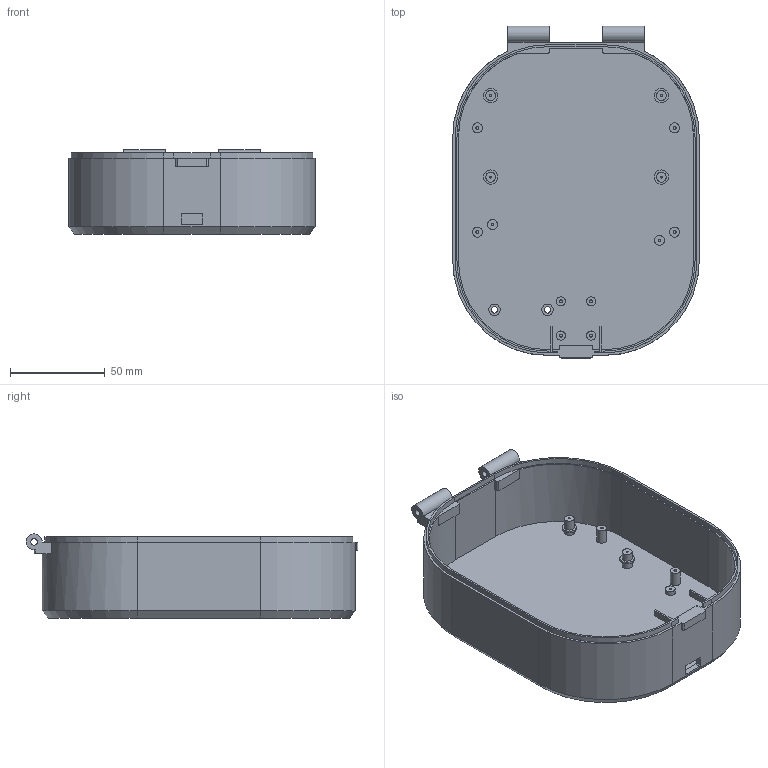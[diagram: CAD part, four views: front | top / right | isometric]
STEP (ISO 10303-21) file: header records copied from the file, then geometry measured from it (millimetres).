
FILE_DESCRIPTION(('FreeCAD Model'),'2;1');
FILE_NAME('Open CASCADE Shape Model','2026-11-13T18:41:43',('FreeCAD'),( 'FreeCAD'),'Open CASCADE STEP processor 7.8','FreeCAD','Unknown');
FILE_SCHEMA(('AUTOMOTIVE_DESIGN { 1 0 10303 214 1 1 1 1 }'));
Length unit declared in the file: millimetre
Products named in the file (1): Open CASCADE STEP translator 7.8 1
Bounding box: 130 x 175.05 x 44.39 mm (x, y, z)
Volume: 116483.3 mm3; surface area: 83114.9 mm2
Topology: 1 solids, 1 shells, 203 faces, 465 edges, 308 vertices
Faces by surface type: plane 118, cylinder 79, cone 6
Full cylindrical faces by diameter (mm): 1 x6, 1.6 x9, 3.3 x2, 3.4 x2, 4.8 x4, 5.2 x14, 6 x4, 7.6 x4
Entity records: 5809 total; most frequent: CARTESIAN_POINT 1053, DIRECTION 1013, ORIENTED_EDGE 930, EDGE_CURVE 465, AXIS2_PLACEMENT_3D 372, VERTEX_POINT 308, LINE 269, VECTOR 269
